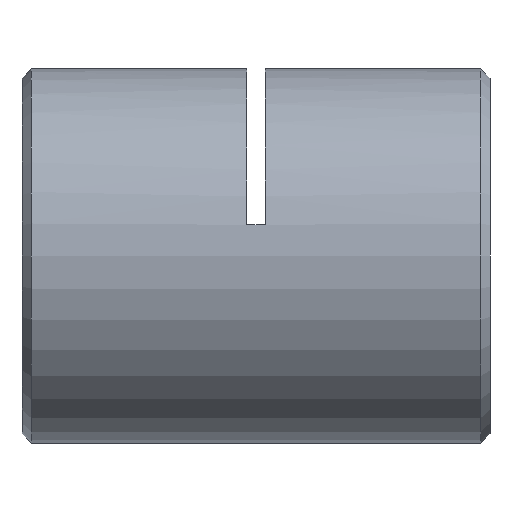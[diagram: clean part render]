
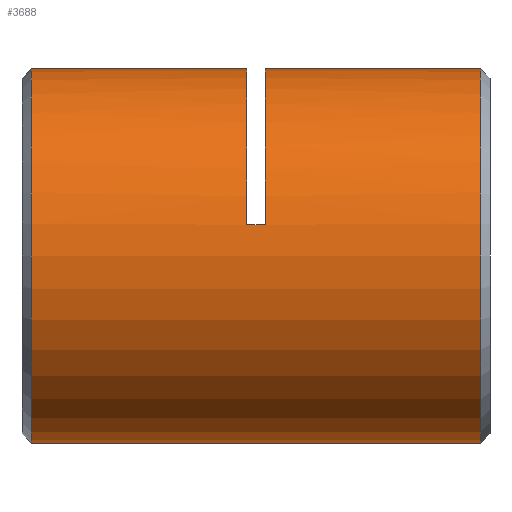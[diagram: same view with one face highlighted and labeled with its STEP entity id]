
A CAD part, left-side view. The second image highlights one B-rep face of the part: STEP entity #3688.
In plain terms, the highlighted cylindrical face has radius 10 mm (diameter 20 mm), a partial arc.
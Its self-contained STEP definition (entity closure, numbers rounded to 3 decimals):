
#16 = CARTESIAN_POINT ( 'NONE',  ( 0., 0., 10. ) ) ;
#78 = ORIENTED_EDGE ( 'NONE', *, *, #1862, .T. ) ;
#120 = CIRCLE ( 'NONE', #3347, 10. ) ;
#140 = DIRECTION ( 'NONE',  ( 0., 0., 1. ) ) ;
#149 = CARTESIAN_POINT ( 'NONE',  ( 0., 24.75, 0. ) ) ;
#257 = ORIENTED_EDGE ( 'NONE', *, *, #1716, .T. ) ;
#260 = DIRECTION ( 'NONE',  ( 0., 1., 0. ) ) ;
#305 = EDGE_CURVE ( 'NONE', #2436, #507, #120, .T. ) ;
#311 = CARTESIAN_POINT ( 'NONE',  ( 0., 0.75, 10. ) ) ;
#397 = ORIENTED_EDGE ( 'NONE', *, *, #2757, .T. ) ;
#478 = DIRECTION ( 'NONE',  ( 0., -1., 0. ) ) ;
#493 = VERTEX_POINT ( 'NONE', #3030 ) ;
#507 = VERTEX_POINT ( 'NONE', #2459 ) ;
#631 = CYLINDRICAL_SURFACE ( 'NONE', #2494, 10. ) ;
#632 = DIRECTION ( 'NONE',  ( 0., 1., 0. ) ) ;
#648 = CARTESIAN_POINT ( 'NONE',  ( 0., 0., 10. ) ) ;
#652 = AXIS2_PLACEMENT_3D ( 'NONE', #3350, #1604, #140 ) ;
#662 = DIRECTION ( 'NONE',  ( 0., 0., 1. ) ) ;
#873 = CARTESIAN_POINT ( 'NONE',  ( 0., 13.25, 0. ) ) ;
#907 = ORIENTED_EDGE ( 'NONE', *, *, #1877, .F. ) ;
#945 = CARTESIAN_POINT ( 'NONE',  ( 0., 12.25, 0. ) ) ;
#1006 = VECTOR ( 'NONE', #2639, 1000. ) ;
#1142 = CIRCLE ( 'NONE', #2399, 10. ) ;
#1164 = DIRECTION ( 'NONE',  ( 0., 0., 1. ) ) ;
#1166 = AXIS2_PLACEMENT_3D ( 'NONE', #945, #2117, #662 ) ;
#1242 = CARTESIAN_POINT ( 'NONE',  ( 0., 0., 0. ) ) ;
#1244 = VECTOR ( 'NONE', #3787, 1000. ) ;
#1361 = ORIENTED_EDGE ( 'NONE', *, *, #2960, .T. ) ;
#1408 = CARTESIAN_POINT ( 'NONE',  ( 0., 12.25, 10. ) ) ;
#1475 = VERTEX_POINT ( 'NONE', #1408 ) ;
#1538 = CARTESIAN_POINT ( 'NONE',  ( -9.86, 12.75, 1.667 ) ) ;
#1604 = DIRECTION ( 'NONE',  ( 0., 1., 0. ) ) ;
#1613 = EDGE_CURVE ( 'NONE', #3258, #1475, #3167, .T. ) ;
#1621 = LINE ( 'NONE', #1538, #2111 ) ;
#1654 = CARTESIAN_POINT ( 'NONE',  ( 0., 0.75, -10. ) ) ;
#1659 = VERTEX_POINT ( 'NONE', #3084 ) ;
#1716 = EDGE_CURVE ( 'NONE', #3101, #2185, #3020, .T. ) ;
#1740 = VECTOR ( 'NONE', #632, 1000. ) ;
#1811 = ORIENTED_EDGE ( 'NONE', *, *, #305, .T. ) ;
#1840 = DIRECTION ( 'NONE',  ( 0., 0., 1. ) ) ;
#1862 = EDGE_CURVE ( 'NONE', #3258, #2436, #1621, .T. ) ;
#1866 = LINE ( 'NONE', #16, #1006 ) ;
#1877 = EDGE_CURVE ( 'NONE', #3101, #1659, #3580, .T. ) ;
#2017 = CARTESIAN_POINT ( 'NONE',  ( -9.86, 13.25, 1.667 ) ) ;
#2111 = VECTOR ( 'NONE', #260, 1000. ) ;
#2117 = DIRECTION ( 'NONE',  ( 0., 1., 0. ) ) ;
#2185 = VERTEX_POINT ( 'NONE', #311 ) ;
#2190 = DIRECTION ( 'NONE',  ( 0., 0., -1. ) ) ;
#2399 = AXIS2_PLACEMENT_3D ( 'NONE', #149, #478, #2190 ) ;
#2436 = VERTEX_POINT ( 'NONE', #2017 ) ;
#2459 = CARTESIAN_POINT ( 'NONE',  ( 0., 13.25, 10. ) ) ;
#2494 = AXIS2_PLACEMENT_3D ( 'NONE', #1242, #3608, #1840 ) ;
#2639 = DIRECTION ( 'NONE',  ( 0., 1., 0. ) ) ;
#2646 = EDGE_CURVE ( 'NONE', #507, #493, #1866, .T. ) ;
#2757 = EDGE_CURVE ( 'NONE', #2185, #1475, #3612, .T. ) ;
#2826 = FACE_OUTER_BOUND ( 'NONE', #3222, .T. ) ;
#2908 = DIRECTION ( 'NONE',  ( 0., 1., 0. ) ) ;
#2947 = CARTESIAN_POINT ( 'NONE',  ( -9.86, 12.25, 1.667 ) ) ;
#2960 = EDGE_CURVE ( 'NONE', #493, #1659, #1142, .T. ) ;
#3020 = CIRCLE ( 'NONE', #652, 10. ) ;
#3030 = CARTESIAN_POINT ( 'NONE',  ( 0., 24.75, 10. ) ) ;
#3033 = ORIENTED_EDGE ( 'NONE', *, *, #2646, .T. ) ;
#3084 = CARTESIAN_POINT ( 'NONE',  ( 0., 24.75, -10. ) ) ;
#3101 = VERTEX_POINT ( 'NONE', #1654 ) ;
#3167 = CIRCLE ( 'NONE', #1166, 10. ) ;
#3222 = EDGE_LOOP ( 'NONE', ( #907, #257, #397, #3534, #78, #1811, #3033, #1361 ) ) ;
#3258 = VERTEX_POINT ( 'NONE', #2947 ) ;
#3347 = AXIS2_PLACEMENT_3D ( 'NONE', #873, #2908, #1164 ) ;
#3350 = CARTESIAN_POINT ( 'NONE',  ( 0., 0.75, 0. ) ) ;
#3478 = CARTESIAN_POINT ( 'NONE',  ( 0., 0., -10. ) ) ;
#3534 = ORIENTED_EDGE ( 'NONE', *, *, #1613, .F. ) ;
#3580 = LINE ( 'NONE', #3478, #1244 ) ;
#3608 = DIRECTION ( 'NONE',  ( 0., 1., 0. ) ) ;
#3612 = LINE ( 'NONE', #648, #1740 ) ;
#3688 = ADVANCED_FACE ( 'NONE', ( #2826 ), #631, .T. ) ;
#3787 = DIRECTION ( 'NONE',  ( 0., 1., 0. ) ) ;
